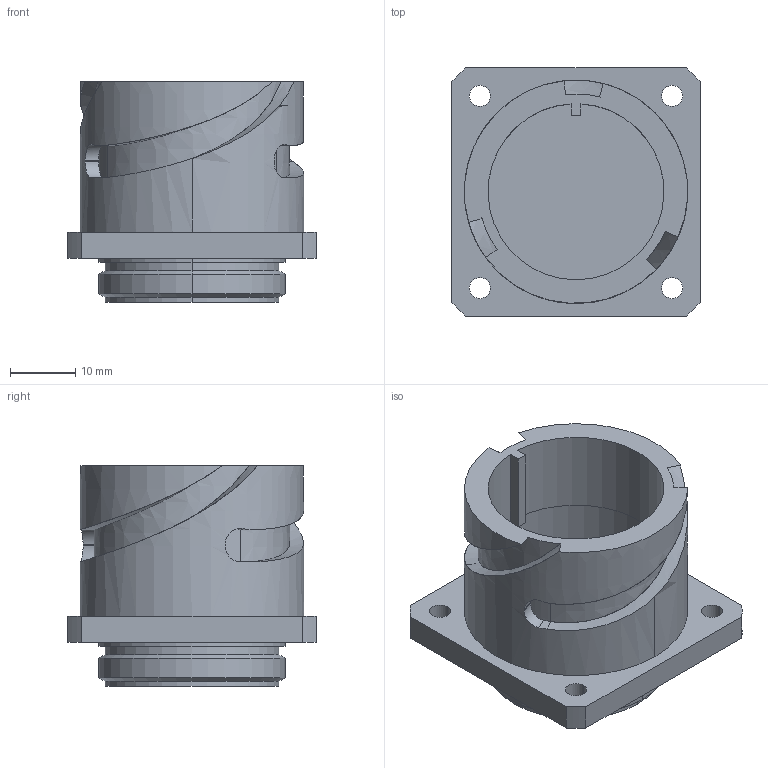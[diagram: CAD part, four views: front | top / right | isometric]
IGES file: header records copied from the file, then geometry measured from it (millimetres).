
Start section:  PTC IGES file: gt030_20_shell.igs
Global section: file name: gt030_20_shell.igs; native system: Creo Parametric by PTC Inc.; preprocessor: 2016260; author: t-nakamura; organization: Unknown; date: 20170622.203858; units: inch
Bounding box: 38 x 38 x 33.81 mm (x, y, z)
Surface area: 9212.4 mm2 (no closed solid volume)
Topology: 0 solids, 0 shells, 73 faces, 360 edges, 360 vertices
Faces by surface type: revolution 37, bspline 36
